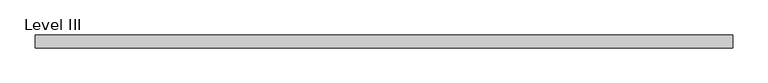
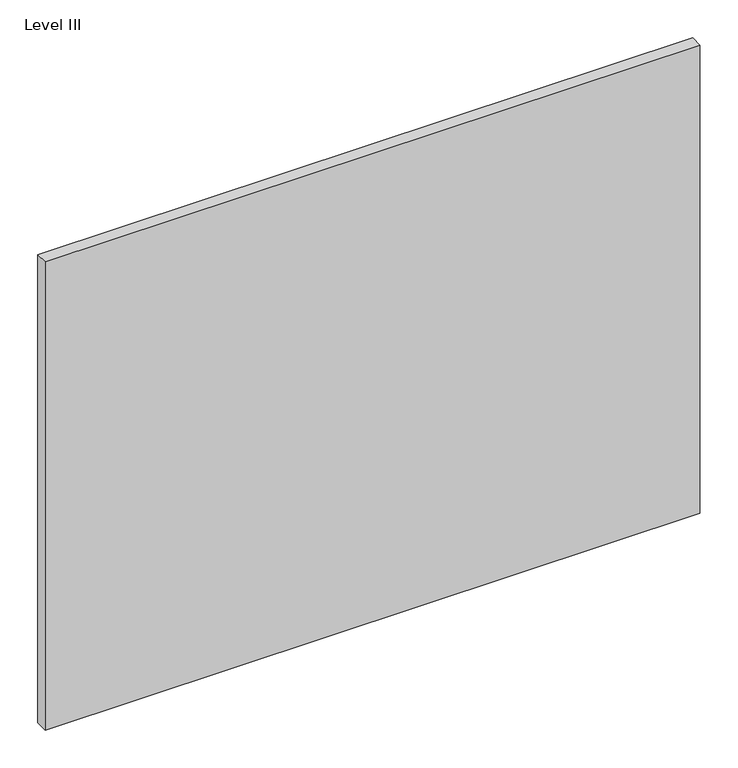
"""IFC4 building model written with IfcOpenShell, lengths in millimetres: proxy geometry, Panel-Fascia-Teknion-Altos-Standard : Level III."""

from ifc_helpers import new_model, si_unit, frame, origin, place, context, project, spatial, polyline, outline, extrude, source, transform, mapped, element, save


def level_iii_939e849f(model_context):
    return source(origin(), model_context, "Body", "SweptSolid", [
        extrude(outline(polyline([(498.4198344, 9.525), (498.4198344, -9.525), (-498.4198344, -9.525), (-498.4198344, 9.525), (498.4198344, 9.525)])), frame((0.0, 0.0, 3.175), z_axis=(0.0, 0.0, 1.0), x_axis=(1.0, 0.0, 0.0)), (0.0, 0.0, 1.0), 753.618),
    ])


if __name__ == "__main__":
    model = new_model("IFC4")
    model_context = context("Model", 3, world=origin())
    ifc_project = project(units=[si_unit("LENGTHUNIT", "METRE", prefix="MILLI")], contexts=[model_context])
    site = spatial("IfcSite", under=ifc_project)
    building = spatial("IfcBuilding", under=site)
    placement = place(None, origin())
    level_iii_shape = level_iii_939e849f(model_context)
    element("IfcBuildingElementProxy", 1, Name="Panel-Fascia-Teknion-Altos-Standard : Level III", ObjectType="Panel-Fascia-Teknion-Altos-Standard : Level III", at=placement, inside=building, context=model_context, shape_type="MappedRepresentation", body=[
        mapped(level_iii_shape, transform((0.0, 0.0, 0.0), x_axis=(1.0, 0.0, 0.0), y_axis=(0.0, 1.0, 0.0), z_axis=(0.0, 0.0, 1.0))),
    ])
    save(model, "model.ifc")
